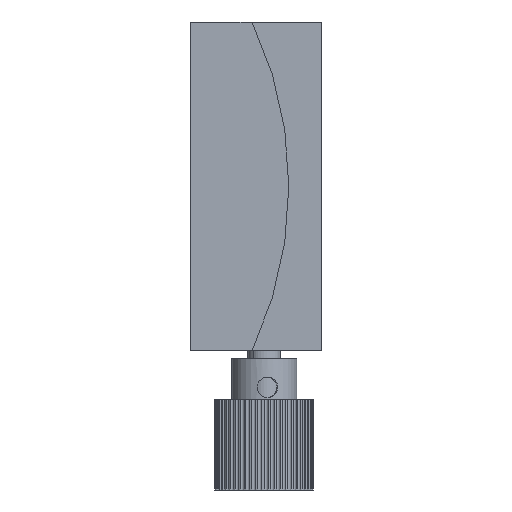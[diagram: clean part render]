
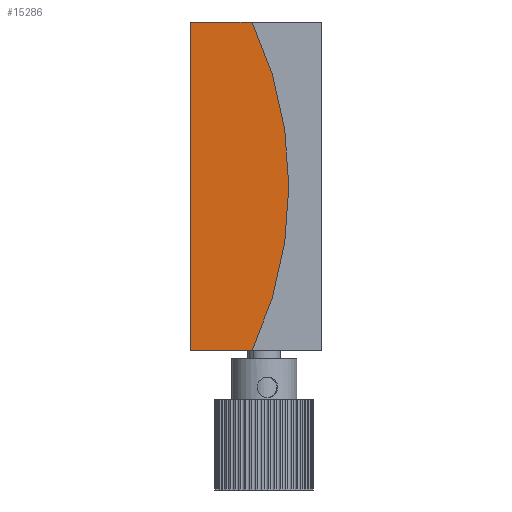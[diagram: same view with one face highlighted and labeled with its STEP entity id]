
A CAD part, left-side view. The second image highlights one B-rep face of the part: STEP entity #15286.
In plain terms, the highlighted planar face has unit normal (-1, 0, 0).
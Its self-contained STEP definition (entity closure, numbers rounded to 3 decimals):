
#664 = CARTESIAN_POINT ( 'NONE',  ( -20., 8., 20. ) ) ;
#985 = DIRECTION ( 'NONE',  ( 1., 0., 0. ) ) ;
#1139 = CIRCLE ( 'NONE', #10658, 47. ) ;
#1184 = VECTOR ( 'NONE', #8873, 1000. ) ;
#1373 = CARTESIAN_POINT ( 'NONE',  ( -20., 8., -20. ) ) ;
#1414 = DIRECTION ( 'NONE',  ( 1., 0., 0. ) ) ;
#1481 = FACE_OUTER_BOUND ( 'NONE', #12424, .T. ) ;
#1545 = CARTESIAN_POINT ( 'NONE',  ( -20., 0.468, 20. ) ) ;
#2092 = EDGE_CURVE ( 'NONE', #2450, #3504, #14579, .T. ) ;
#2450 = VERTEX_POINT ( 'NONE', #664 ) ;
#2874 = ORIENTED_EDGE ( 'NONE', *, *, #2092, .F. ) ;
#3504 = VERTEX_POINT ( 'NONE', #1545 ) ;
#6904 = CARTESIAN_POINT ( 'NONE',  ( -20., 8., 20. ) ) ;
#7454 = EDGE_CURVE ( 'NONE', #15059, #14137, #10394, .T. ) ;
#7476 = ORIENTED_EDGE ( 'NONE', *, *, #14839, .F. ) ;
#7693 = VECTOR ( 'NONE', #8171, 1000. ) ;
#8015 = CARTESIAN_POINT ( 'NONE',  ( -20., 0.468, -20. ) ) ;
#8097 = LINE ( 'NONE', #6904, #7693 ) ;
#8171 = DIRECTION ( 'NONE',  ( 0., 0., 1. ) ) ;
#8473 = CARTESIAN_POINT ( 'NONE',  ( -20., 43., 0. ) ) ;
#8668 = CARTESIAN_POINT ( 'NONE',  ( -20., 8., -20. ) ) ;
#8873 = DIRECTION ( 'NONE',  ( 0., 1., 0. ) ) ;
#8931 = CARTESIAN_POINT ( 'NONE',  ( -20., 43., 0. ) ) ;
#9202 = AXIS2_PLACEMENT_3D ( 'NONE', #8473, #985, #9748 ) ;
#9748 = DIRECTION ( 'NONE',  ( 0., 0., -1. ) ) ;
#10186 = DIRECTION ( 'NONE',  ( 0., 0., -1. ) ) ;
#10373 = CARTESIAN_POINT ( 'NONE',  ( -20., 8., 20. ) ) ;
#10394 = LINE ( 'NONE', #1373, #1184 ) ;
#10451 = EDGE_CURVE ( 'NONE', #14137, #2450, #8097, .T. ) ;
#10658 = AXIS2_PLACEMENT_3D ( 'NONE', #8931, #1414, #10186 ) ;
#11248 = VECTOR ( 'NONE', #11821, 1000. ) ;
#11258 = ORIENTED_EDGE ( 'NONE', *, *, #10451, .F. ) ;
#11821 = DIRECTION ( 'NONE',  ( 0., -1., 0. ) ) ;
#12424 = EDGE_LOOP ( 'NONE', ( #2874, #11258, #14066, #7476 ) ) ;
#14066 = ORIENTED_EDGE ( 'NONE', *, *, #7454, .F. ) ;
#14137 = VERTEX_POINT ( 'NONE', #8668 ) ;
#14579 = LINE ( 'NONE', #10373, #11248 ) ;
#14839 = EDGE_CURVE ( 'NONE', #3504, #15059, #1139, .T. ) ;
#15059 = VERTEX_POINT ( 'NONE', #8015 ) ;
#15286 = ADVANCED_FACE ( 'NONE', ( #1481 ), #15986, .F. ) ;
#15986 = PLANE ( 'NONE',  #9202 ) ;
